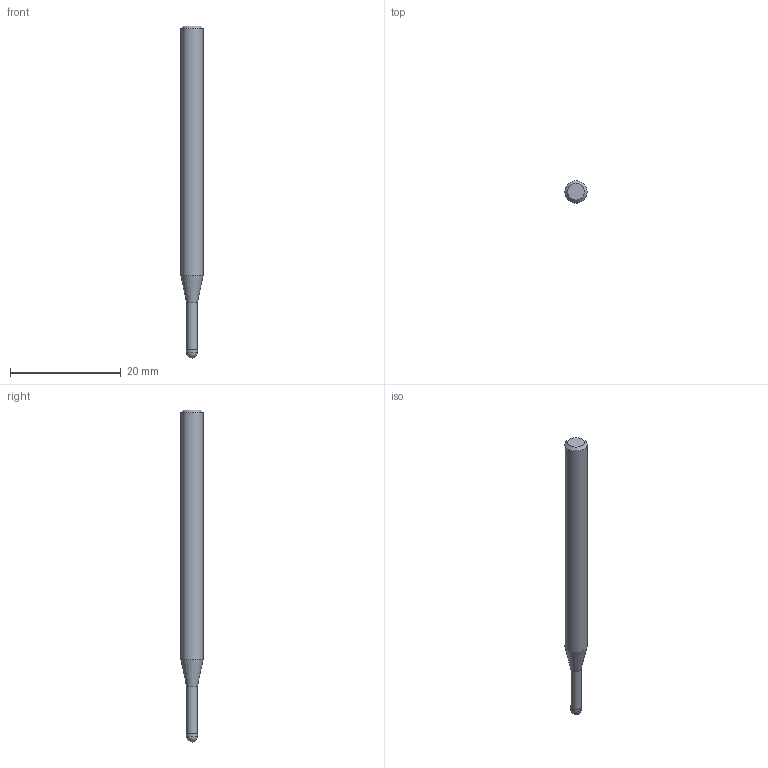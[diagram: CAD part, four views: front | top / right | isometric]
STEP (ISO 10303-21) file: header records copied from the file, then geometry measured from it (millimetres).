
FILE_DESCRIPTION((''),'2;1');
FILE_NAME('C:\Users\nsx150\AppData\Local\Temp\Mastercam 2021\EUJSUNXURU\TEMP.step','2021-04-22T10:22:50',(''),(''),'STEP Write','Mastercam 2021 ... CNC Software, Inc.','');
FILE_SCHEMA(('AUTOMOTIVE_DESIGN'));
Length unit declared in the file: millimetre
Products named in the file (1): None
Bounding box: 4 x 4 x 60 mm (x, y, z)
Volume: 629.7 mm3; surface area: 689.5 mm2
Topology: 2 solids, 2 shells, 9 faces, 14 edges, 8 vertices
Faces by surface type: plane 3, cylinder 3, cone 2, sphere 1
Full cylindrical faces by diameter (mm): 1.94 x1, 2 x1, 4 x1
Entity records: 211 total; most frequent: DIRECTION 36, CARTESIAN_POINT 25, AXIS2_PLACEMENT_3D 18, ORIENTED_EDGE 14, EDGE_LOOP 14, STYLED_ITEM 12, ADVANCED_FACE 9, FACE_BOUND 8
